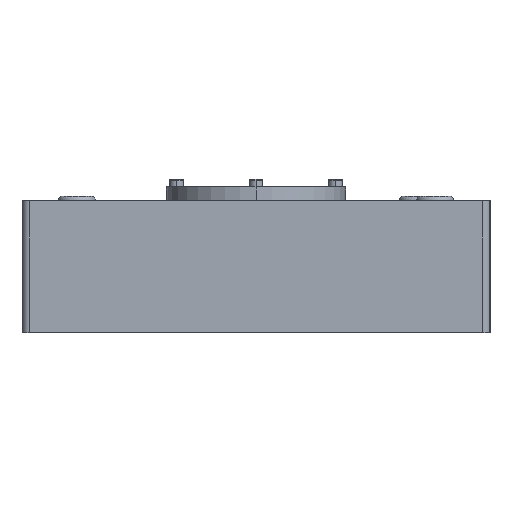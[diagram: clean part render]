
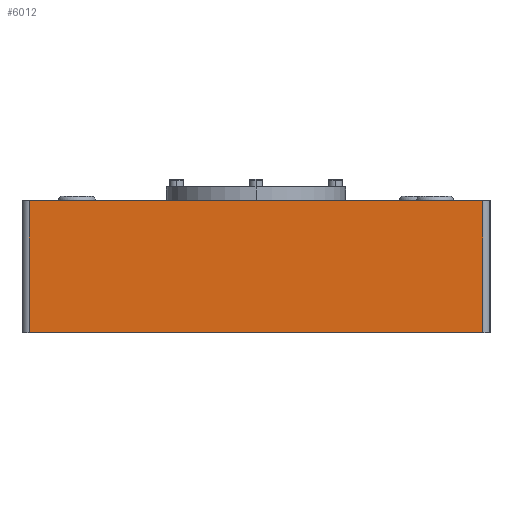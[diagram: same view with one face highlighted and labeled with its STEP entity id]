
A CAD part, left-side view. The second image highlights one B-rep face of the part: STEP entity #6012.
In plain terms, the highlighted planar face has unit normal (-1, 0, 0) as drawn and (0, 1, 0) by its records, which use the part's own axes.
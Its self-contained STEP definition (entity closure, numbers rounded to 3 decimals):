
#238 = CARTESIAN_POINT ( 'NONE',  ( -91., 92.5, 0. ) ) ;
#266 = PLANE ( 'NONE',  #2165 ) ;
#446 = EDGE_CURVE ( 'NONE', #3490, #5540, #3930, .T. ) ;
#759 = DIRECTION ( 'NONE',  ( 0., 0., 1. ) ) ;
#805 = LINE ( 'NONE', #5775, #3466 ) ;
#1334 = DIRECTION ( 'NONE',  ( 0., 0., -1. ) ) ;
#1437 = EDGE_CURVE ( 'NONE', #4798, #3913, #4743, .T. ) ;
#1545 = DIRECTION ( 'NONE',  ( -1., 0., 0. ) ) ;
#1778 = ORIENTED_EDGE ( 'NONE', *, *, #1437, .T. ) ;
#1850 = DIRECTION ( 'NONE',  ( -1., 0., 0. ) ) ;
#2165 = AXIS2_PLACEMENT_3D ( 'NONE', #3255, #4276, #759 ) ;
#2285 = ORIENTED_EDGE ( 'NONE', *, *, #6325, .F. ) ;
#3094 = CARTESIAN_POINT ( 'NONE',  ( -91., 92.5, -53. ) ) ;
#3202 = VECTOR ( 'NONE', #1850, 1000. ) ;
#3255 = CARTESIAN_POINT ( 'NONE',  ( -94., 92.5, -53. ) ) ;
#3319 = CARTESIAN_POINT ( 'NONE',  ( -94., 92.5, -53. ) ) ;
#3441 = CARTESIAN_POINT ( 'NONE',  ( 91., 92.5, 0. ) ) ;
#3466 = VECTOR ( 'NONE', #1545, 1000. ) ;
#3490 = VERTEX_POINT ( 'NONE', #3094 ) ;
#3733 = ORIENTED_EDGE ( 'NONE', *, *, #6217, .T. ) ;
#3898 = CARTESIAN_POINT ( 'NONE',  ( 91., 92.5, -53. ) ) ;
#3913 = VERTEX_POINT ( 'NONE', #3898 ) ;
#3930 = LINE ( 'NONE', #4337, #5961 ) ;
#4042 = FACE_OUTER_BOUND ( 'NONE', #5866, .T. ) ;
#4276 = DIRECTION ( 'NONE',  ( 0., 1., 0. ) ) ;
#4337 = CARTESIAN_POINT ( 'NONE',  ( -91., 92.5, -53. ) ) ;
#4743 = LINE ( 'NONE', #4816, #5301 ) ;
#4798 = VERTEX_POINT ( 'NONE', #3441 ) ;
#4816 = CARTESIAN_POINT ( 'NONE',  ( 91., 92.5, -53. ) ) ;
#5301 = VECTOR ( 'NONE', #1334, 1000. ) ;
#5540 = VERTEX_POINT ( 'NONE', #238 ) ;
#5553 = LINE ( 'NONE', #3319, #3202 ) ;
#5775 = CARTESIAN_POINT ( 'NONE',  ( -94., 92.5, 0. ) ) ;
#5818 = ORIENTED_EDGE ( 'NONE', *, *, #446, .T. ) ;
#5866 = EDGE_LOOP ( 'NONE', ( #2285, #1778, #3733, #5818 ) ) ;
#5961 = VECTOR ( 'NONE', #6315, 1000. ) ;
#6012 = ADVANCED_FACE ( 'NONE', ( #4042 ), #266, .T. ) ;
#6217 = EDGE_CURVE ( 'NONE', #3913, #3490, #5553, .T. ) ;
#6315 = DIRECTION ( 'NONE',  ( 0., 0., 1. ) ) ;
#6325 = EDGE_CURVE ( 'NONE', #4798, #5540, #805, .T. ) ;
